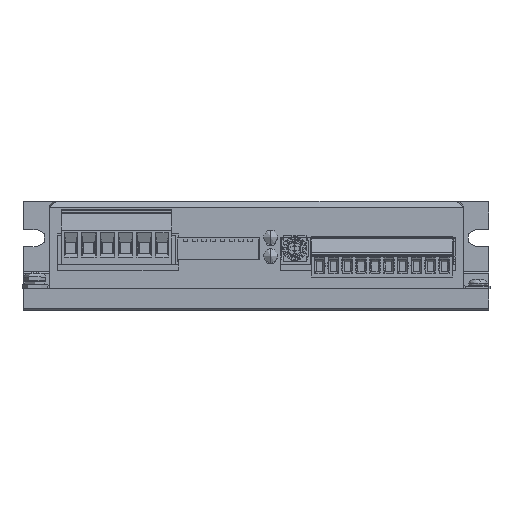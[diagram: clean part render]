
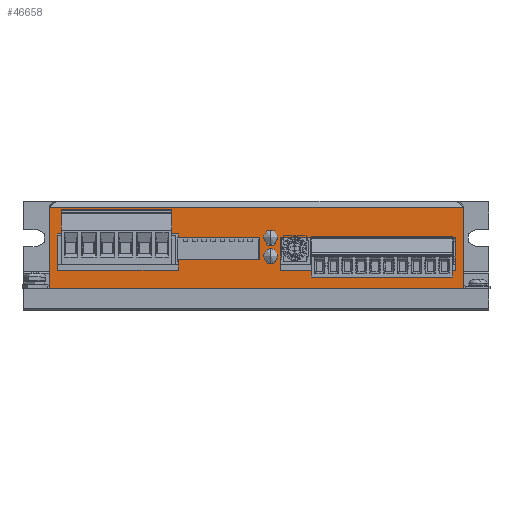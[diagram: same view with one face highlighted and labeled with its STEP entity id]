
A CAD part, top view. The second image highlights one B-rep face of the part: STEP entity #46658.
In plain terms, the highlighted planar face has unit normal (0, 0, 1).
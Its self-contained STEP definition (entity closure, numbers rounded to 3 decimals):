
#43543=DIRECTION('',(1.,0.,0.));
#43544=VECTOR('',#43543,114.);
#43545=CARTESIAN_POINT('',(-57.,-1.7,35.));
#43546=LINE('',#43545,#43544);
#43581=DIRECTION('',(0.,-1.,0.));
#43582=VECTOR('',#43581,22.3);
#43583=CARTESIAN_POINT('',(57.,-1.7,35.));
#43584=LINE('',#43583,#43582);
#43588=DIRECTION('',(-1.,0.,0.));
#43589=VECTOR('',#43588,114.);
#43590=CARTESIAN_POINT('',(57.,-24.,35.));
#43591=LINE('',#43590,#43589);
#43595=DIRECTION('',(0.,1.,0.));
#43596=VECTOR('',#43595,22.3);
#43597=CARTESIAN_POINT('',(-57.,-24.,35.));
#43598=LINE('',#43597,#43596);
#43602=DIRECTION('',(1.,0.,0.));
#43603=VECTOR('',#43602,3.75);
#43604=CARTESIAN_POINT('',(-54.75,-9.,35.));
#43605=LINE('',#43604,#43603);
#43609=DIRECTION('',(0.,1.,0.));
#43610=VECTOR('',#43609,10.);
#43611=CARTESIAN_POINT('',(-54.75,-19.,35.));
#43612=LINE('',#43611,#43610);
#43616=DIRECTION('',(-1.,0.,0.));
#43617=VECTOR('',#43616,33.25);
#43618=CARTESIAN_POINT('',(-21.5,-19.,35.));
#43619=LINE('',#43618,#43617);
#43623=DIRECTION('',(0.,-1.,0.));
#43624=VECTOR('',#43623,3.);
#43625=CARTESIAN_POINT('',(-21.5,-16.,35.));
#43626=LINE('',#43625,#43624);
#43630=DIRECTION('',(-1.,0.,0.));
#43631=VECTOR('',#43630,22.5);
#43632=CARTESIAN_POINT('',(1.,-16.,35.));
#43633=LINE('',#43632,#43631);
#43637=DIRECTION('',(0.,-1.,0.));
#43638=VECTOR('',#43637,6.);
#43639=CARTESIAN_POINT('',(1.,-10.,35.));
#43640=LINE('',#43639,#43638);
#43644=DIRECTION('',(1.,0.,0.));
#43645=VECTOR('',#43644,22.5);
#43646=CARTESIAN_POINT('',(-21.5,-10.,35.));
#43647=LINE('',#43646,#43645);
#43651=DIRECTION('',(0.,-1.,0.));
#43652=VECTOR('',#43651,1.);
#43653=CARTESIAN_POINT('',(-21.5,-9.,35.));
#43654=LINE('',#43653,#43652);
#43658=DIRECTION('',(1.,0.,0.));
#43659=VECTOR('',#43658,4.5);
#43660=CARTESIAN_POINT('',(-26.,-9.,35.));
#43661=LINE('',#43660,#43659);
#43665=DIRECTION('',(0.,-1.,0.));
#43666=VECTOR('',#43665,2.5);
#43667=CARTESIAN_POINT('',(-26.,-6.5,35.));
#43668=LINE('',#43667,#43666);
#43672=DIRECTION('',(1.,0.,0.));
#43673=VECTOR('',#43672,3.);
#43674=CARTESIAN_POINT('',(-29.,-6.5,35.));
#43675=LINE('',#43674,#43673);
#43679=DIRECTION('',(0.,1.,0.));
#43680=VECTOR('',#43679,2.5);
#43681=CARTESIAN_POINT('',(-29.,-9.,35.));
#43682=LINE('',#43681,#43680);
#43686=DIRECTION('',(1.,0.,0.));
#43687=VECTOR('',#43686,19.);
#43688=CARTESIAN_POINT('',(-48.,-9.,35.));
#43689=LINE('',#43688,#43687);
#43693=DIRECTION('',(0.,-1.,0.));
#43694=VECTOR('',#43693,2.5);
#43695=CARTESIAN_POINT('',(-48.,-6.5,35.));
#43696=LINE('',#43695,#43694);
#43700=DIRECTION('',(1.,0.,0.));
#43701=VECTOR('',#43700,3.);
#43702=CARTESIAN_POINT('',(-51.,-6.5,35.));
#43703=LINE('',#43702,#43701);
#43707=DIRECTION('',(0.,1.,0.));
#43708=VECTOR('',#43707,2.5);
#43709=CARTESIAN_POINT('',(-51.,-9.,35.));
#43710=LINE('',#43709,#43708);
#43714=DIRECTION('',(0.,-1.,0.));
#43715=VECTOR('',#43714,9.);
#43716=CARTESIAN_POINT('',(54.75,-10.,35.));
#43717=LINE('',#43716,#43715);
#43721=DIRECTION('',(1.,0.,0.));
#43722=VECTOR('',#43721,48.);
#43723=CARTESIAN_POINT('',(6.75,-10.,35.));
#43724=LINE('',#43723,#43722);
#43728=DIRECTION('',(0.,1.,0.));
#43729=VECTOR('',#43728,9.);
#43730=CARTESIAN_POINT('',(6.75,-19.,35.));
#43731=LINE('',#43730,#43729);
#43735=DIRECTION('',(-1.,0.,0.));
#43736=VECTOR('',#43735,48.);
#43737=CARTESIAN_POINT('',(54.75,-19.,35.));
#43738=LINE('',#43737,#43736);
#43742=CARTESIAN_POINT('',(3.93,-10.58,35.));
#43743=DIRECTION('',(0.,0.,1.));
#43744=DIRECTION('',(-1.,0.,0.));
#43745=AXIS2_PLACEMENT_3D('',#43742,#43743,#43744);
#43750=CARTESIAN_POINT('',(3.93,-10.58,35.));
#43751=DIRECTION('',(0.,0.,1.));
#43752=DIRECTION('',(1.,0.,0.));
#43753=AXIS2_PLACEMENT_3D('',#43750,#43751,#43752);
#43758=CARTESIAN_POINT('',(3.93,-15.66,35.));
#43759=DIRECTION('',(0.,0.,1.));
#43760=DIRECTION('',(-1.,0.,0.));
#43761=AXIS2_PLACEMENT_3D('',#43758,#43759,#43760);
#43766=CARTESIAN_POINT('',(3.93,-15.66,35.));
#43767=DIRECTION('',(0.,0.,1.));
#43768=DIRECTION('',(1.,0.,0.));
#43769=AXIS2_PLACEMENT_3D('',#43766,#43767,#43768);
#45463=CARTESIAN_POINT('',(57.,-1.7,35.));
#45464=CARTESIAN_POINT('',(57.,-24.,35.));
#45465=VERTEX_POINT('',#45463);
#45466=VERTEX_POINT('',#45464);
#45467=CARTESIAN_POINT('',(-57.,-24.,35.));
#45468=VERTEX_POINT('',#45467);
#45469=CARTESIAN_POINT('',(-57.,-1.7,35.));
#45470=VERTEX_POINT('',#45469);
#45567=CARTESIAN_POINT('',(-54.75,-9.,35.));
#45568=CARTESIAN_POINT('',(-51.,-9.,35.));
#45569=VERTEX_POINT('',#45567);
#45570=VERTEX_POINT('',#45568);
#45571=CARTESIAN_POINT('',(54.75,-10.,35.));
#45572=CARTESIAN_POINT('',(54.75,-19.,35.));
#45573=VERTEX_POINT('',#45571);
#45574=VERTEX_POINT('',#45572);
#45575=CARTESIAN_POINT('',(6.75,-19.,35.));
#45576=VERTEX_POINT('',#45575);
#45577=CARTESIAN_POINT('',(-54.75,-19.,35.));
#45578=VERTEX_POINT('',#45577);
#45607=CARTESIAN_POINT('',(2.13,-10.58,35.));
#45608=CARTESIAN_POINT('',(5.73,-10.58,35.));
#45609=VERTEX_POINT('',#45607);
#45610=VERTEX_POINT('',#45608);
#45611=CARTESIAN_POINT('',(2.13,-15.66,35.));
#45612=CARTESIAN_POINT('',(5.73,-15.66,35.));
#45613=VERTEX_POINT('',#45611);
#45614=VERTEX_POINT('',#45612);
#45615=CARTESIAN_POINT('',(1.,-10.,35.));
#45616=CARTESIAN_POINT('',(1.,-16.,35.));
#45617=VERTEX_POINT('',#45615);
#45618=VERTEX_POINT('',#45616);
#45619=CARTESIAN_POINT('',(6.75,-10.,35.));
#45620=VERTEX_POINT('',#45619);
#45635=CARTESIAN_POINT('',(-51.,-6.5,35.));
#45636=VERTEX_POINT('',#45635);
#45637=CARTESIAN_POINT('',(-48.,-6.5,35.));
#45638=VERTEX_POINT('',#45637);
#45639=CARTESIAN_POINT('',(-48.,-9.,35.));
#45640=VERTEX_POINT('',#45639);
#45641=CARTESIAN_POINT('',(-29.,-9.,35.));
#45642=VERTEX_POINT('',#45641);
#45643=CARTESIAN_POINT('',(-29.,-6.5,35.));
#45644=VERTEX_POINT('',#45643);
#45645=CARTESIAN_POINT('',(-26.,-6.5,35.));
#45646=VERTEX_POINT('',#45645);
#45647=CARTESIAN_POINT('',(-26.,-9.,35.));
#45648=VERTEX_POINT('',#45647);
#45649=CARTESIAN_POINT('',(-21.5,-9.,35.));
#45650=VERTEX_POINT('',#45649);
#45667=CARTESIAN_POINT('',(-21.5,-10.,35.));
#45668=VERTEX_POINT('',#45667);
#45911=CARTESIAN_POINT('',(-21.5,-16.,35.));
#45912=VERTEX_POINT('',#45911);
#45913=CARTESIAN_POINT('',(-21.5,-19.,35.));
#45914=VERTEX_POINT('',#45913);
#46588=CARTESIAN_POINT('',(57.,0.,35.));
#46589=DIRECTION('',(0.,0.,-1.));
#46590=DIRECTION('',(1.,0.,0.));
#46591=AXIS2_PLACEMENT_3D('',#46588,#46589,#46590);
#46592=PLANE('',#46591);
#46594=ORIENTED_EDGE('',*,*,#46593,.T.);
#46596=ORIENTED_EDGE('',*,*,#46595,.T.);
#46598=ORIENTED_EDGE('',*,*,#46597,.T.);
#46599=ORIENTED_EDGE('',*,*,#46579,.T.);
#46600=EDGE_LOOP('',(#46594,#46596,#46598,#46599));
#46601=FACE_OUTER_BOUND('',#46600,.F.);
#46603=ORIENTED_EDGE('',*,*,#46602,.F.);
#46605=ORIENTED_EDGE('',*,*,#46604,.F.);
#46607=ORIENTED_EDGE('',*,*,#46606,.F.);
#46609=ORIENTED_EDGE('',*,*,#46608,.F.);
#46611=ORIENTED_EDGE('',*,*,#46610,.F.);
#46613=ORIENTED_EDGE('',*,*,#46612,.F.);
#46615=ORIENTED_EDGE('',*,*,#46614,.F.);
#46617=ORIENTED_EDGE('',*,*,#46616,.F.);
#46619=ORIENTED_EDGE('',*,*,#46618,.F.);
#46621=ORIENTED_EDGE('',*,*,#46620,.F.);
#46623=ORIENTED_EDGE('',*,*,#46622,.F.);
#46625=ORIENTED_EDGE('',*,*,#46624,.F.);
#46627=ORIENTED_EDGE('',*,*,#46626,.F.);
#46629=ORIENTED_EDGE('',*,*,#46628,.F.);
#46631=ORIENTED_EDGE('',*,*,#46630,.F.);
#46633=ORIENTED_EDGE('',*,*,#46632,.F.);
#46634=EDGE_LOOP('',(#46603,#46605,#46607,#46609,#46611,#46613,#46615,#46617,
#46619,#46621,#46623,#46625,#46627,#46629,#46631,#46633));
#46635=FACE_BOUND('',#46634,.F.);
#46637=ORIENTED_EDGE('',*,*,#46636,.F.);
#46639=ORIENTED_EDGE('',*,*,#46638,.F.);
#46641=ORIENTED_EDGE('',*,*,#46640,.F.);
#46643=ORIENTED_EDGE('',*,*,#46642,.F.);
#46644=EDGE_LOOP('',(#46637,#46639,#46641,#46643));
#46645=FACE_BOUND('',#46644,.F.);
#46647=ORIENTED_EDGE('',*,*,#46646,.T.);
#46649=ORIENTED_EDGE('',*,*,#46648,.T.);
#46650=EDGE_LOOP('',(#46647,#46649));
#46651=FACE_BOUND('',#46650,.F.);
#46653=ORIENTED_EDGE('',*,*,#46652,.T.);
#46655=ORIENTED_EDGE('',*,*,#46654,.T.);
#46656=EDGE_LOOP('',(#46653,#46655));
#46657=FACE_BOUND('',#46656,.F.);
#46658=ADVANCED_FACE('',(#46601,#46635,#46645,#46651,#46657),#46592,.F.);
#43746=CIRCLE('',#43745,1.8);
#43754=CIRCLE('',#43753,1.8);
#43762=CIRCLE('',#43761,1.8);
#43770=CIRCLE('',#43769,1.8);
#46579=EDGE_CURVE('',#45470,#45465,#43546,.T.);
#46593=EDGE_CURVE('',#45465,#45466,#43584,.T.);
#46595=EDGE_CURVE('',#45466,#45468,#43591,.T.);
#46597=EDGE_CURVE('',#45468,#45470,#43598,.T.);
#46602=EDGE_CURVE('',#45569,#45570,#43605,.T.);
#46604=EDGE_CURVE('',#45578,#45569,#43612,.T.);
#46606=EDGE_CURVE('',#45914,#45578,#43619,.T.);
#46608=EDGE_CURVE('',#45912,#45914,#43626,.T.);
#46610=EDGE_CURVE('',#45618,#45912,#43633,.T.);
#46612=EDGE_CURVE('',#45617,#45618,#43640,.T.);
#46614=EDGE_CURVE('',#45668,#45617,#43647,.T.);
#46616=EDGE_CURVE('',#45650,#45668,#43654,.T.);
#46618=EDGE_CURVE('',#45648,#45650,#43661,.T.);
#46620=EDGE_CURVE('',#45646,#45648,#43668,.T.);
#46622=EDGE_CURVE('',#45644,#45646,#43675,.T.);
#46624=EDGE_CURVE('',#45642,#45644,#43682,.T.);
#46626=EDGE_CURVE('',#45640,#45642,#43689,.T.);
#46628=EDGE_CURVE('',#45638,#45640,#43696,.T.);
#46630=EDGE_CURVE('',#45636,#45638,#43703,.T.);
#46632=EDGE_CURVE('',#45570,#45636,#43710,.T.);
#46636=EDGE_CURVE('',#45573,#45574,#43717,.T.);
#46638=EDGE_CURVE('',#45620,#45573,#43724,.T.);
#46640=EDGE_CURVE('',#45576,#45620,#43731,.T.);
#46642=EDGE_CURVE('',#45574,#45576,#43738,.T.);
#46646=EDGE_CURVE('',#45609,#45610,#43746,.T.);
#46648=EDGE_CURVE('',#45610,#45609,#43754,.T.);
#46652=EDGE_CURVE('',#45613,#45614,#43762,.T.);
#46654=EDGE_CURVE('',#45614,#45613,#43770,.T.);
